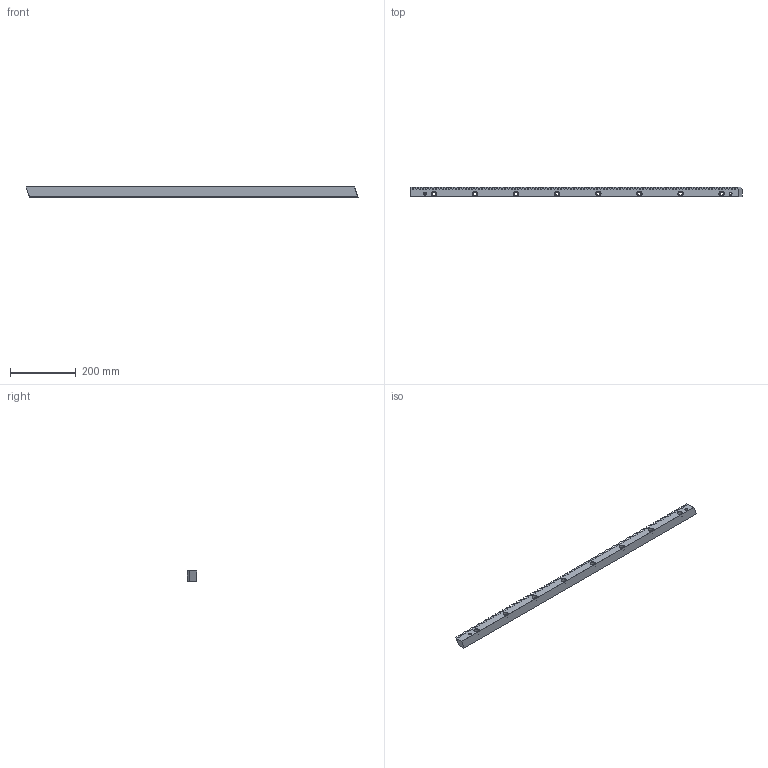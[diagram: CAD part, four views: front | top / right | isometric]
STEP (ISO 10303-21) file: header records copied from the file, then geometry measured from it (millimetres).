
FILE_DESCRIPTION((''),'2;1');
FILE_NAME('P2320308100','2017-02-20T',('d01943'),(''),'PRO/ENGINEER BY PARAMETRIC TECHNOLOGY CORPORATION, 2008410','PRO/ENGINEER BY PARAMETRIC TECHNOLOGY CORPORATION, 2008410','');
FILE_SCHEMA(('CONFIG_CONTROL_DESIGN'));
Length unit declared in the file: millimetre
Products named in the file (1): P2320308100
Bounding box: 1010.2 x 29 x 31 mm (x, y, z)
Volume: 774086.8 mm3; surface area: 154548.4 mm2
Topology: 1 solids, 1 shells, 500 faces, 1424 edges, 934 vertices
Faces by surface type: plane 424, cone 40, cylinder 36
Entity records: 16050 total; most frequent: CARTESIAN_POINT 2858, ORIENTED_EDGE 2848, DIRECTION 2536, EDGE_CURVE 1424, VECTOR 1312, LINE 1312, VERTEX_POINT 934, AXIS2_PLACEMENT_3D 612
